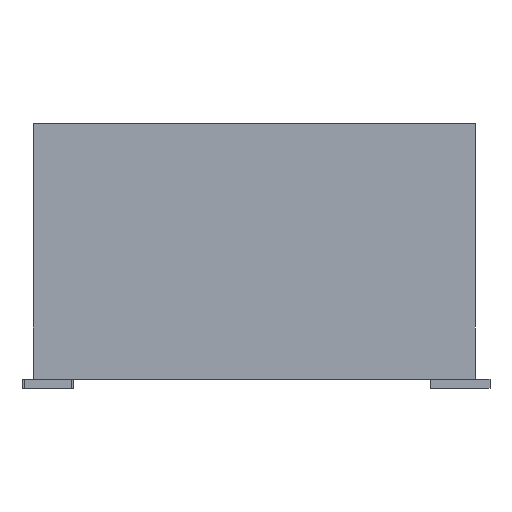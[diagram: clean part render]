
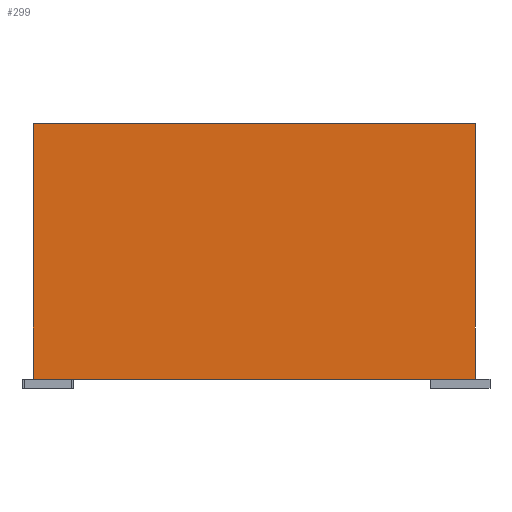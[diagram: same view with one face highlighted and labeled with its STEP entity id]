
A CAD part, left-side view. The second image highlights one B-rep face of the part: STEP entity #299.
In plain terms, the highlighted planar face has unit normal (-1, 0, 0).
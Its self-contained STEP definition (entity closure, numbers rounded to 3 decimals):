
#36 = EDGE_CURVE('',#37,#39,#41,.T.);
#37 = VERTEX_POINT('',#38);
#38 = CARTESIAN_POINT('',(-5.1,2.425,0.));
#39 = VERTEX_POINT('',#40);
#40 = CARTESIAN_POINT('',(-5.1,2.425,2.8));
#41 = SURFACE_CURVE('',#42,(#46,#58),.PCURVE_S1.);
#42 = LINE('',#43,#44);
#43 = CARTESIAN_POINT('',(-5.1,2.425,0.));
#44 = VECTOR('',#45,1.);
#45 = DIRECTION('',(0.,0.,1.));
#46 = PCURVE('',#47,#52);
#47 = PLANE('',#48);
#48 = AXIS2_PLACEMENT_3D('',#49,#50,#51);
#49 = CARTESIAN_POINT('',(-5.1,2.425,0.));
#50 = DIRECTION('',(0.,1.,0.));
#51 = DIRECTION('',(1.,0.,0.));
#52 = DEFINITIONAL_REPRESENTATION('',(#53),#57);
#53 = LINE('',#54,#55);
#54 = CARTESIAN_POINT('',(0.,0.));
#55 = VECTOR('',#56,1.);
#56 = DIRECTION('',(0.,-1.));
#57 = ( GEOMETRIC_REPRESENTATION_CONTEXT(2) 
PARAMETRIC_REPRESENTATION_CONTEXT() REPRESENTATION_CONTEXT('2D SPACE',''
  ) );
#58 = PCURVE('',#59,#64);
#59 = PLANE('',#60);
#60 = AXIS2_PLACEMENT_3D('',#61,#62,#63);
#61 = CARTESIAN_POINT('',(-5.1,-2.425,0.));
#62 = DIRECTION('',(-1.,0.,0.));
#63 = DIRECTION('',(0.,1.,0.));
#64 = DEFINITIONAL_REPRESENTATION('',(#65),#69);
#65 = LINE('',#66,#67);
#66 = CARTESIAN_POINT('',(4.85,0.));
#67 = VECTOR('',#68,1.);
#68 = DIRECTION('',(0.,-1.));
#69 = ( GEOMETRIC_REPRESENTATION_CONTEXT(2) 
PARAMETRIC_REPRESENTATION_CONTEXT() REPRESENTATION_CONTEXT('2D SPACE',''
  ) );
#87 = PLANE('',#88);
#88 = AXIS2_PLACEMENT_3D('',#89,#90,#91);
#89 = CARTESIAN_POINT('',(0.,0.,2.8));
#90 = DIRECTION('',(-0.,-0.,-1.));
#91 = DIRECTION('',(-1.,0.,0.));
#141 = PLANE('',#142);
#142 = AXIS2_PLACEMENT_3D('',#143,#144,#145);
#143 = CARTESIAN_POINT('',(0.,0.,0.));
#144 = DIRECTION('',(-0.,-0.,-1.));
#145 = DIRECTION('',(-1.,0.,0.));
#196 = PLANE('',#197);
#197 = AXIS2_PLACEMENT_3D('',#198,#199,#200);
#198 = CARTESIAN_POINT('',(5.1,-2.425,0.));
#199 = DIRECTION('',(0.,-1.,0.));
#200 = DIRECTION('',(-1.,0.,0.));
#234 = VERTEX_POINT('',#235);
#235 = CARTESIAN_POINT('',(-5.1,-2.425,2.8));
#256 = EDGE_CURVE('',#257,#234,#259,.T.);
#257 = VERTEX_POINT('',#258);
#258 = CARTESIAN_POINT('',(-5.1,-2.425,0.));
#259 = SURFACE_CURVE('',#260,(#264,#271),.PCURVE_S1.);
#260 = LINE('',#261,#262);
#261 = CARTESIAN_POINT('',(-5.1,-2.425,0.));
#262 = VECTOR('',#263,1.);
#263 = DIRECTION('',(0.,0.,1.));
#264 = PCURVE('',#196,#265);
#265 = DEFINITIONAL_REPRESENTATION('',(#266),#270);
#266 = LINE('',#267,#268);
#267 = CARTESIAN_POINT('',(10.2,0.));
#268 = VECTOR('',#269,1.);
#269 = DIRECTION('',(0.,-1.));
#270 = ( GEOMETRIC_REPRESENTATION_CONTEXT(2) 
PARAMETRIC_REPRESENTATION_CONTEXT() REPRESENTATION_CONTEXT('2D SPACE',''
  ) );
#271 = PCURVE('',#59,#272);
#272 = DEFINITIONAL_REPRESENTATION('',(#273),#277);
#273 = LINE('',#274,#275);
#274 = CARTESIAN_POINT('',(0.,0.));
#275 = VECTOR('',#276,1.);
#276 = DIRECTION('',(0.,-1.));
#277 = ( GEOMETRIC_REPRESENTATION_CONTEXT(2) 
PARAMETRIC_REPRESENTATION_CONTEXT() REPRESENTATION_CONTEXT('2D SPACE',''
  ) );
#299 = ADVANCED_FACE('',(#300),#59,.T.);
#300 = FACE_BOUND('',#301,.T.);
#301 = EDGE_LOOP('',(#302,#303,#324,#325));
#302 = ORIENTED_EDGE('',*,*,#256,.T.);
#303 = ORIENTED_EDGE('',*,*,#304,.T.);
#304 = EDGE_CURVE('',#234,#39,#305,.T.);
#305 = SURFACE_CURVE('',#306,(#310,#317),.PCURVE_S1.);
#306 = LINE('',#307,#308);
#307 = CARTESIAN_POINT('',(-5.1,-2.425,2.8));
#308 = VECTOR('',#309,1.);
#309 = DIRECTION('',(0.,1.,0.));
#310 = PCURVE('',#59,#311);
#311 = DEFINITIONAL_REPRESENTATION('',(#312),#316);
#312 = LINE('',#313,#314);
#313 = CARTESIAN_POINT('',(0.,-2.8));
#314 = VECTOR('',#315,1.);
#315 = DIRECTION('',(1.,0.));
#316 = ( GEOMETRIC_REPRESENTATION_CONTEXT(2) 
PARAMETRIC_REPRESENTATION_CONTEXT() REPRESENTATION_CONTEXT('2D SPACE',''
  ) );
#317 = PCURVE('',#87,#318);
#318 = DEFINITIONAL_REPRESENTATION('',(#319),#323);
#319 = LINE('',#320,#321);
#320 = CARTESIAN_POINT('',(5.1,-2.425));
#321 = VECTOR('',#322,1.);
#322 = DIRECTION('',(0.,1.));
#323 = ( GEOMETRIC_REPRESENTATION_CONTEXT(2) 
PARAMETRIC_REPRESENTATION_CONTEXT() REPRESENTATION_CONTEXT('2D SPACE',''
  ) );
#324 = ORIENTED_EDGE('',*,*,#36,.F.);
#325 = ORIENTED_EDGE('',*,*,#326,.F.);
#326 = EDGE_CURVE('',#257,#37,#327,.T.);
#327 = SURFACE_CURVE('',#328,(#332,#339),.PCURVE_S1.);
#328 = LINE('',#329,#330);
#329 = CARTESIAN_POINT('',(-5.1,-2.425,0.));
#330 = VECTOR('',#331,1.);
#331 = DIRECTION('',(0.,1.,0.));
#332 = PCURVE('',#59,#333);
#333 = DEFINITIONAL_REPRESENTATION('',(#334),#338);
#334 = LINE('',#335,#336);
#335 = CARTESIAN_POINT('',(0.,0.));
#336 = VECTOR('',#337,1.);
#337 = DIRECTION('',(1.,0.));
#338 = ( GEOMETRIC_REPRESENTATION_CONTEXT(2) 
PARAMETRIC_REPRESENTATION_CONTEXT() REPRESENTATION_CONTEXT('2D SPACE',''
  ) );
#339 = PCURVE('',#141,#340);
#340 = DEFINITIONAL_REPRESENTATION('',(#341),#345);
#341 = LINE('',#342,#343);
#342 = CARTESIAN_POINT('',(5.1,-2.425));
#343 = VECTOR('',#344,1.);
#344 = DIRECTION('',(0.,1.));
#345 = ( GEOMETRIC_REPRESENTATION_CONTEXT(2) 
PARAMETRIC_REPRESENTATION_CONTEXT() REPRESENTATION_CONTEXT('2D SPACE',''
  ) );
